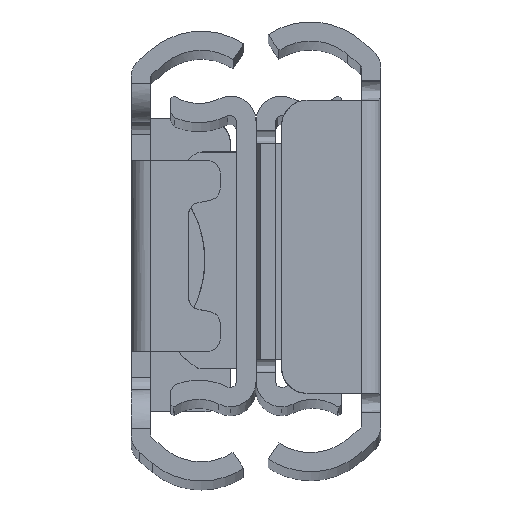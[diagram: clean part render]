
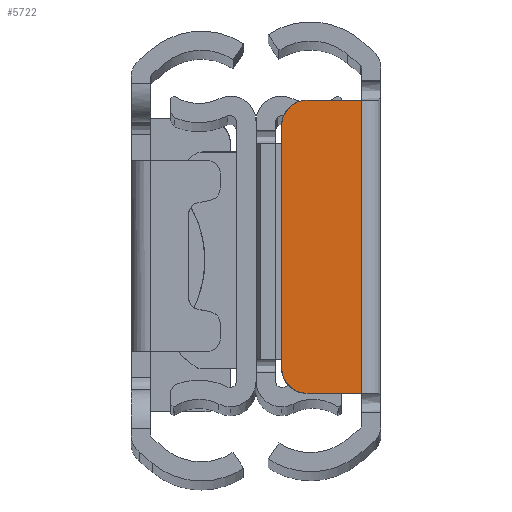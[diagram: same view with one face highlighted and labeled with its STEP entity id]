
A CAD part, top view. The second image highlights one B-rep face of the part: STEP entity #5722.
In plain terms, the highlighted planar face has unit normal (0, 0, 1) as drawn and (0, 0, -1) by its records, which use the part's own axes.
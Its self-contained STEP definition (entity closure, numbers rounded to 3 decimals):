
#21 = CARTESIAN_POINT ( 'NONE',  ( 212.052, 10.507, 101.6 ) ) ;
#33 = CARTESIAN_POINT ( 'NONE',  ( 211.8, 3.167, 101.6 ) ) ;
#43 = CARTESIAN_POINT ( 'NONE',  ( 213.8, -11.5, 101.6 ) ) ;
#175 = B_SPLINE_CURVE_WITH_KNOTS ( 'NONE', 3,
 ( #2518, #33, #2389, #1922 ),
 .UNSPECIFIED., .F., .F.,
 ( 4, 4 ),
 ( 0., 1. ),
 .UNSPECIFIED. ) ;
#283 = CARTESIAN_POINT ( 'NONE',  ( 218.1, -11.5, 101.6 ) ) ;
#429 = CARTESIAN_POINT ( 'NONE',  ( 212.571, 11.099, 101.6 ) ) ;
#441 = CARTESIAN_POINT ( 'NONE',  ( 218.1, 3.833, 101.6 ) ) ;
#544 = VERTEX_POINT ( 'NONE', #3931 ) ;
#828 = B_SPLINE_CURVE_WITH_KNOTS ( 'NONE', 3,
 ( #1269, #3017, #1998, #3371, #3981, #2028, #1520, #1555, #1454, #43 ),
 .UNSPECIFIED., .F., .F.,
 ( 4, 2, 2, 2, 4 ),
 ( 0., 0.25, 0.5, 0.75, 1. ),
 .UNSPECIFIED. ) ;
#977 = CARTESIAN_POINT ( 'NONE',  ( 211.8, 9.5, 101.6 ) ) ;
#1024 = CARTESIAN_POINT ( 'NONE',  ( 218.1, 11.5, 101.6 ) ) ;
#1082 = EDGE_CURVE ( 'NONE', #2656, #2719, #175, .T. ) ;
#1087 = CARTESIAN_POINT ( 'NONE',  ( 214.4, 13.74, 101.6 ) ) ;
#1212 = EDGE_LOOP ( 'NONE', ( #5459, #1240, #3187, #4560, #5426, #5686 ) ) ;
#1240 = ORIENTED_EDGE ( 'NONE', *, *, #5537, .F. ) ;
#1250 = CARTESIAN_POINT ( 'NONE',  ( 213.8, -11.5, 101.6 ) ) ;
#1269 = CARTESIAN_POINT ( 'NONE',  ( 211.8, -9.5, 101.6 ) ) ;
#1334 = VERTEX_POINT ( 'NONE', #1730 ) ;
#1397 = CARTESIAN_POINT ( 'NONE',  ( 213.538, 11.5, 101.6 ) ) ;
#1454 = CARTESIAN_POINT ( 'NONE',  ( 213.538, -11.5, 101.6 ) ) ;
#1520 = CARTESIAN_POINT ( 'NONE',  ( 212.793, -11.248, 101.6 ) ) ;
#1555 = CARTESIAN_POINT ( 'NONE',  ( 213.277, -11.448, 101.6 ) ) ;
#1568 = CARTESIAN_POINT ( 'NONE',  ( 218.1, -11.5, 101.6 ) ) ;
#1577 = VERTEX_POINT ( 'NONE', #1568 ) ;
#1691 = DIRECTION ( 'NONE',  ( 0., -1., 0. ) ) ;
#1696 = CARTESIAN_POINT ( 'NONE',  ( 216.667, -11.5, 101.6 ) ) ;
#1730 = CARTESIAN_POINT ( 'NONE',  ( 213.8, 11.5, 101.6 ) ) ;
#1921 = AXIS2_PLACEMENT_3D ( 'NONE', #1087, #2642, #1691 ) ;
#1922 = CARTESIAN_POINT ( 'NONE',  ( 211.8, -9.5, 101.6 ) ) ;
#1998 = CARTESIAN_POINT ( 'NONE',  ( 211.852, -10.023, 101.6 ) ) ;
#2028 = CARTESIAN_POINT ( 'NONE',  ( 212.571, -11.099, 101.6 ) ) ;
#2389 = CARTESIAN_POINT ( 'NONE',  ( 211.8, -3.167, 101.6 ) ) ;
#2446 = CARTESIAN_POINT ( 'NONE',  ( 215.233, 11.5, 101.6 ) ) ;
#2518 = CARTESIAN_POINT ( 'NONE',  ( 211.8, 9.5, 101.6 ) ) ;
#2642 = DIRECTION ( 'NONE',  ( 0., 0., 1. ) ) ;
#2656 = VERTEX_POINT ( 'NONE', #4073 ) ;
#2719 = VERTEX_POINT ( 'NONE', #3718 ) ;
#2797 = CARTESIAN_POINT ( 'NONE',  ( 212.793, 11.248, 101.6 ) ) ;
#2813 = B_SPLINE_CURVE_WITH_KNOTS ( 'NONE', 3,
 ( #5293, #3327, #441, #1024 ),
 .UNSPECIFIED., .F., .F.,
 ( 4, 4 ),
 ( 0., 1. ),
 .UNSPECIFIED. ) ;
#2845 = EDGE_CURVE ( 'NONE', #1577, #6232, #2813, .T. ) ;
#3017 = CARTESIAN_POINT ( 'NONE',  ( 211.8, -9.762, 101.6 ) ) ;
#3030 = CARTESIAN_POINT ( 'NONE',  ( 213.8, 11.5, 101.6 ) ) ;
#3187 = ORIENTED_EDGE ( 'NONE', *, *, #5643, .F. ) ;
#3193 = CARTESIAN_POINT ( 'NONE',  ( 215.233, -11.5, 101.6 ) ) ;
#3316 = CARTESIAN_POINT ( 'NONE',  ( 212.201, 10.729, 101.6 ) ) ;
#3327 = CARTESIAN_POINT ( 'NONE',  ( 218.1, -3.833, 101.6 ) ) ;
#3344 = EDGE_CURVE ( 'NONE', #2719, #544, #828, .T. ) ;
#3371 = CARTESIAN_POINT ( 'NONE',  ( 212.052, -10.507, 101.6 ) ) ;
#3718 = CARTESIAN_POINT ( 'NONE',  ( 211.8, -9.5, 101.6 ) ) ;
#3827 = CARTESIAN_POINT ( 'NONE',  ( 213.8, 11.5, 101.6 ) ) ;
#3929 = CARTESIAN_POINT ( 'NONE',  ( 216.667, 11.5, 101.6 ) ) ;
#3931 = CARTESIAN_POINT ( 'NONE',  ( 213.8, -11.5, 101.6 ) ) ;
#3981 = CARTESIAN_POINT ( 'NONE',  ( 212.201, -10.729, 101.6 ) ) ;
#4073 = CARTESIAN_POINT ( 'NONE',  ( 211.8, 9.5, 101.6 ) ) ;
#4233 = CARTESIAN_POINT ( 'NONE',  ( 218.1, 11.5, 101.6 ) ) ;
#4275 = CARTESIAN_POINT ( 'NONE',  ( 211.852, 10.023, 101.6 ) ) ;
#4339 = CARTESIAN_POINT ( 'NONE',  ( 211.8, 9.762, 101.6 ) ) ;
#4401 = CARTESIAN_POINT ( 'NONE',  ( 213.277, 11.448, 101.6 ) ) ;
#4560 = ORIENTED_EDGE ( 'NONE', *, *, #2845, .F. ) ;
#4802 = EDGE_CURVE ( 'NONE', #544, #1577, #5696, .T. ) ;
#5293 = CARTESIAN_POINT ( 'NONE',  ( 218.1, -11.5, 101.6 ) ) ;
#5426 = ORIENTED_EDGE ( 'NONE', *, *, #4802, .F. ) ;
#5445 = PLANE ( 'NONE',  #1921 ) ;
#5459 = ORIENTED_EDGE ( 'NONE', *, *, #1082, .F. ) ;
#5537 = EDGE_CURVE ( 'NONE', #1334, #2656, #5596, .T. ) ;
#5596 = B_SPLINE_CURVE_WITH_KNOTS ( 'NONE', 3,
 ( #3827, #1397, #4401, #2797, #429, #3316, #21, #4275, #4339, #977 ),
 .UNSPECIFIED., .F., .F.,
 ( 4, 2, 2, 2, 4 ),
 ( 0., 0.25, 0.5, 0.75, 1. ),
 .UNSPECIFIED. ) ;
#5643 = EDGE_CURVE ( 'NONE', #6232, #1334, #5898, .T. ) ;
#5686 = ORIENTED_EDGE ( 'NONE', *, *, #3344, .F. ) ;
#5696 = B_SPLINE_CURVE_WITH_KNOTS ( 'NONE', 3,
 ( #1250, #3193, #1696, #283 ),
 .UNSPECIFIED., .F., .F.,
 ( 4, 4 ),
 ( 0., 1. ),
 .UNSPECIFIED. ) ;
#5722 = ADVANCED_FACE ( 'NONE', ( #5925 ), #5445, .F. ) ;
#5890 = CARTESIAN_POINT ( 'NONE',  ( 218.1, 11.5, 101.6 ) ) ;
#5898 = B_SPLINE_CURVE_WITH_KNOTS ( 'NONE', 3,
 ( #5890, #3929, #2446, #3030 ),
 .UNSPECIFIED., .F., .F.,
 ( 4, 4 ),
 ( 0., 1. ),
 .UNSPECIFIED. ) ;
#5925 = FACE_OUTER_BOUND ( 'NONE', #1212, .T. ) ;
#6232 = VERTEX_POINT ( 'NONE', #4233 ) ;
